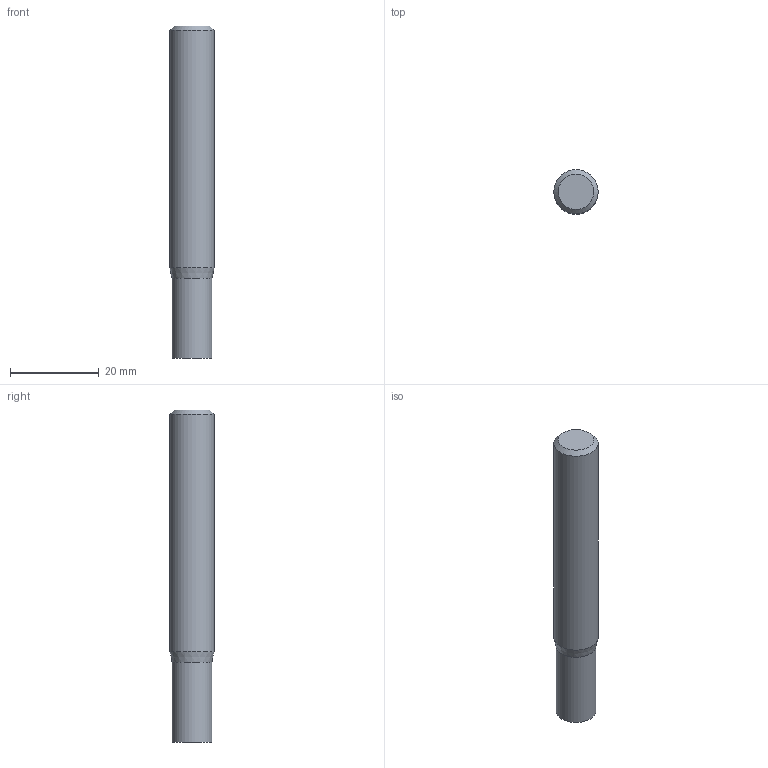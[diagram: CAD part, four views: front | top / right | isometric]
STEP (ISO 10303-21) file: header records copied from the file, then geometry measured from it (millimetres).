
FILE_DESCRIPTION((''),'2;1');
FILE_NAME('C:\Users\nsx150\AppData\Local\Temp\Mastercam 2021\E36A1X9CCL\TEMP.step','2023-04-21T15:13:24',(''),(''),'STEP Write','Mastercam 2021 ... CNC Software, Inc.','');
FILE_SCHEMA(('AUTOMOTIVE_DESIGN'));
Length unit declared in the file: millimetre
Products named in the file (1): None
Bounding box: 10 x 10 x 75 mm (x, y, z)
Volume: 5589.4 mm3; surface area: 2547.2 mm2
Topology: 2 solids, 2 shells, 8 faces, 10 edges, 6 vertices
Faces by surface type: plane 4, cylinder 2, cone 2
Full cylindrical faces by diameter (mm): 9 x1, 10 x1
Entity records: 190 total; most frequent: DIRECTION 32, CARTESIAN_POINT 22, AXIS2_PLACEMENT_3D 16, ORIENTED_EDGE 12, EDGE_LOOP 12, STYLED_ITEM 11, ADVANCED_FACE 8, VERTEX_POINT 6
